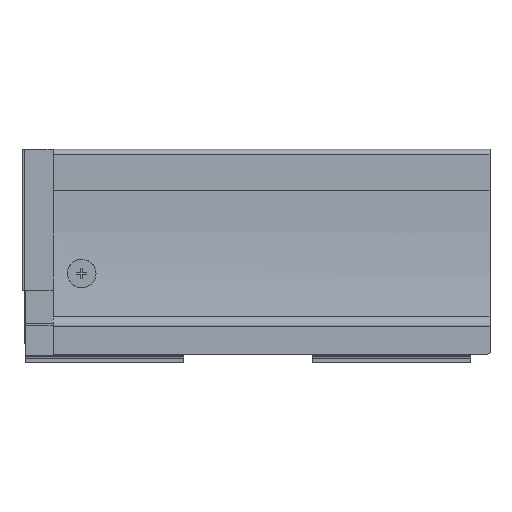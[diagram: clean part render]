
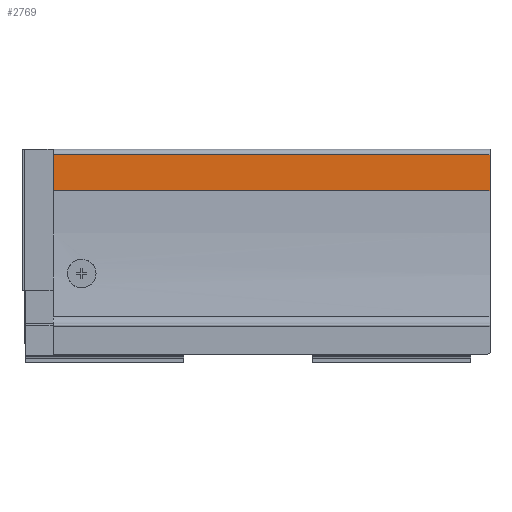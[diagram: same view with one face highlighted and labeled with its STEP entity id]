
A CAD part, left-side view. The second image highlights one B-rep face of the part: STEP entity #2769.
In plain terms, the highlighted planar face has unit normal (-1, 0, 0).
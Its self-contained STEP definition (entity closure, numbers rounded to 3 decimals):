
#115 = CARTESIAN_POINT ( 'NONE',  ( -19.87, 265., 78.498 ) ) ;
#121 = DIRECTION ( 'NONE',  ( 0., -1., 0. ) ) ;
#128 = DIRECTION ( 'NONE',  ( 0., 0., 1. ) ) ;
#152 = CARTESIAN_POINT ( 'NONE',  ( -19.87, 248.8, 78.498 ) ) ;
#254 = VERTEX_POINT ( 'NONE', #1920 ) ;
#260 = VERTEX_POINT ( 'NONE', #1893 ) ;
#324 = FACE_OUTER_BOUND ( 'NONE', #3966, .T. ) ;
#725 = VECTOR ( 'NONE', #3161, 1000. ) ;
#726 = LINE ( 'NONE', #3160, #725 ) ;
#762 = VECTOR ( 'NONE', #121, 1000. ) ;
#781 = LINE ( 'NONE', #115, #762 ) ;
#960 = VECTOR ( 'NONE', #128, 1000. ) ;
#996 = LINE ( 'NONE', #2961, #1081 ) ;
#1081 = VECTOR ( 'NONE', #2971, 1000. ) ;
#1159 = LINE ( 'NONE', #152, #960 ) ;
#1279 = CARTESIAN_POINT ( 'NONE',  ( -19.87, 0., 78.498 ) ) ;
#1335 = ORIENTED_EDGE ( 'NONE', *, *, #2284, .F. ) ;
#1385 = ORIENTED_EDGE ( 'NONE', *, *, #2525, .T. ) ;
#1780 = VERTEX_POINT ( 'NONE', #1903 ) ;
#1872 = VERTEX_POINT ( 'NONE', #1279 ) ;
#1893 = CARTESIAN_POINT ( 'NONE',  ( -19.87, 248.8, 57.888 ) ) ;
#1903 = CARTESIAN_POINT ( 'NONE',  ( -19.87, 0., 57.888 ) ) ;
#1920 = CARTESIAN_POINT ( 'NONE',  ( -19.87, 248.8, 78.498 ) ) ;
#2269 = EDGE_CURVE ( 'NONE', #254, #1872, #781, .T. ) ;
#2284 = EDGE_CURVE ( 'NONE', #260, #254, #1159, .T. ) ;
#2390 = EDGE_CURVE ( 'NONE', #1780, #1872, #996, .T. ) ;
#2525 = EDGE_CURVE ( 'NONE', #260, #1780, #726, .T. ) ;
#2671 = AXIS2_PLACEMENT_3D ( 'NONE', #3473, #3476, #3477 ) ;
#2701 = ORIENTED_EDGE ( 'NONE', *, *, #2269, .F. ) ;
#2730 = ORIENTED_EDGE ( 'NONE', *, *, #2390, .T. ) ;
#2769 = ADVANCED_FACE ( 'NONE', ( #324 ), #3474, .F. ) ;
#2961 = CARTESIAN_POINT ( 'NONE',  ( -19.87, 0., 78.498 ) ) ;
#2971 = DIRECTION ( 'NONE',  ( 0., 0., 1. ) ) ;
#3160 = CARTESIAN_POINT ( 'NONE',  ( -19.87, 265., 57.888 ) ) ;
#3161 = DIRECTION ( 'NONE',  ( 0., -1., 0. ) ) ;
#3473 = CARTESIAN_POINT ( 'NONE',  ( -19.87, 265., 78.498 ) ) ;
#3474 = PLANE ( 'NONE',  #2671 ) ;
#3476 = DIRECTION ( 'NONE',  ( 1., 0., 0. ) ) ;
#3477 = DIRECTION ( 'NONE',  ( 0., 0., 1. ) ) ;
#3966 = EDGE_LOOP ( 'NONE', ( #1335, #1385, #2730, #2701 ) ) ;
